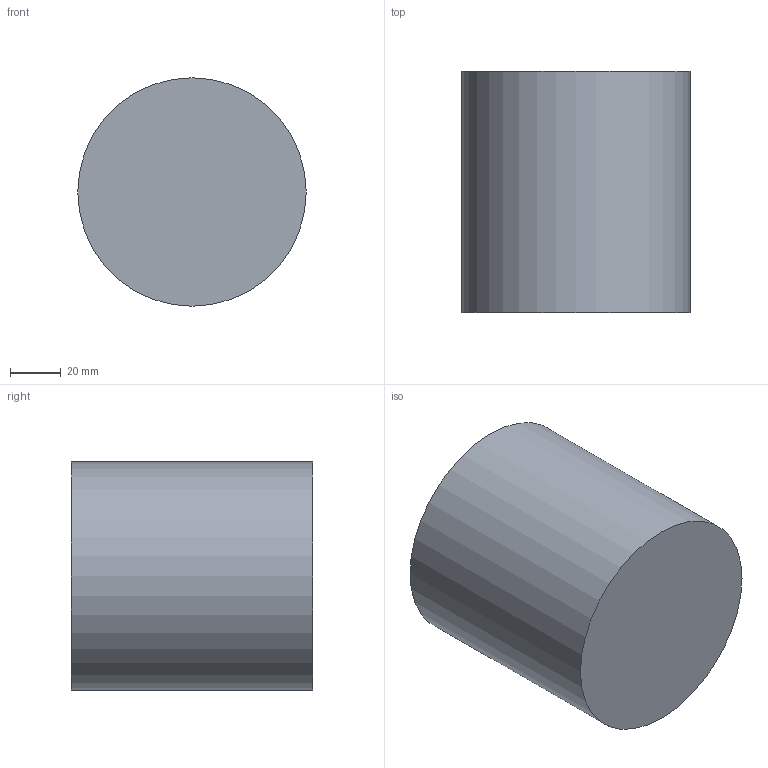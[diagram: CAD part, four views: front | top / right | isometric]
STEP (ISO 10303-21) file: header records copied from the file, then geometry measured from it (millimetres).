
FILE_DESCRIPTION(('Open CASCADE Model'),'2;1');
FILE_NAME('Open CASCADE Shape Model','2026-10-10T15:34:57',('Author'),( 'Open CASCADE'),'Open CASCADE STEP processor 7.9','Open CASCADE 7.9' ,'Unknown');
FILE_SCHEMA(('AUTOMOTIVE_DESIGN { 1 0 10303 214 1 1 1 1 }'));
Length unit declared in the file: millimetre
Products named in the file (1): Open CASCADE STEP translator 7.9 17
Bounding box: 90 x 95 x 90 mm (x, y, z)
Volume: 604363.9 mm3; surface area: 39584.1 mm2
Topology: 1 solids, 1 shells, 3 faces, 3 edges, 2 vertices
Faces by surface type: plane 2, cylinder 1
Full cylindrical faces by diameter (mm): 90 x1
Entity records: 108 total; most frequent: DIRECTION 19, CARTESIAN_POINT 15, AXIS2_PLACEMENT_3D 6, ORIENTED_EDGE 6, PCURVE 6, DEFINITIONAL_REPRESENTATION 6, LINE 5, VECTOR 5
